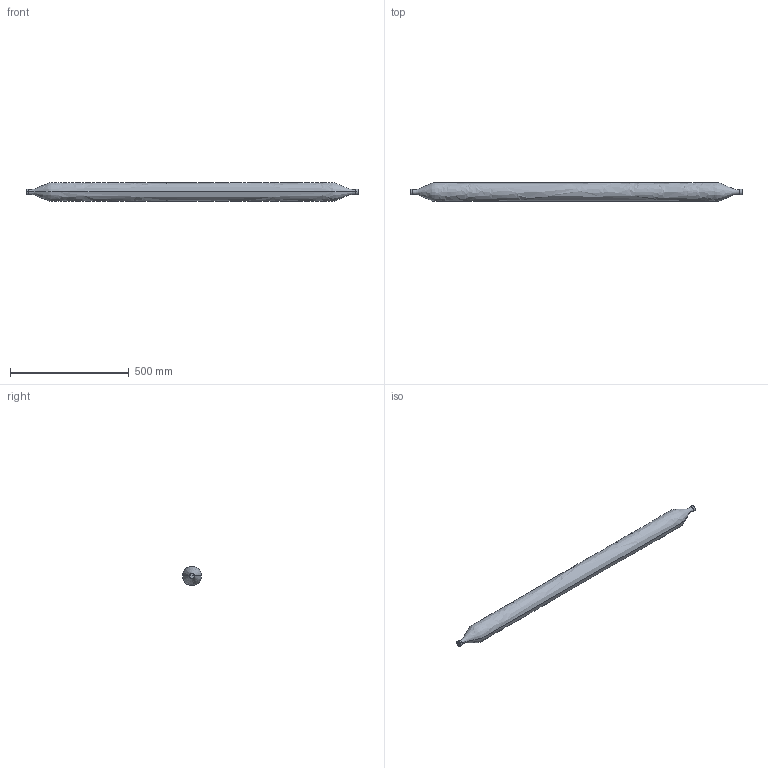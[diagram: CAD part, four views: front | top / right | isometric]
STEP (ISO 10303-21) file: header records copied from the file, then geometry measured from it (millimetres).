
FILE_DESCRIPTION(/* description */ (''),/* implementation_level */ '2;1');
FILE_NAME(/* name */ '10.optics-laser#10.6#100WLongLifeLaserTube',/* time_stamp */ '2014-12-01T20:19:33+01:00',/* author */ (''),/* organization */ (''),/* preprocessor_version */ 'ST-DEVELOPER v14',/* originating_system */ '',/* authorisation */ '');
FILE_SCHEMA (('AUTOMOTIVE_DESIGN'));
Length unit declared in the file: millimetre
Products named in the file (1): Document
Bounding box: 1400 x 80 x 80 mm (x, y, z)
Volume: 6475510.2 mm3; surface area: 330571 mm2
Topology: 1 solids, 1 shells, 18 faces, 38 edges, 18 vertices
Faces by surface type: bspline 18
Entity records: 1398 total; most frequent: CARTESIAN_POINT 936, B_SPLINE_CURVE_WITH_KNOTS 84, ORIENTED_EDGE 68, PCURVE 68, DEFINITIONAL_REPRESENTATION 68, SURFACE_CURVE 34, EDGE_CURVE 34, ADVANCED_FACE 18
